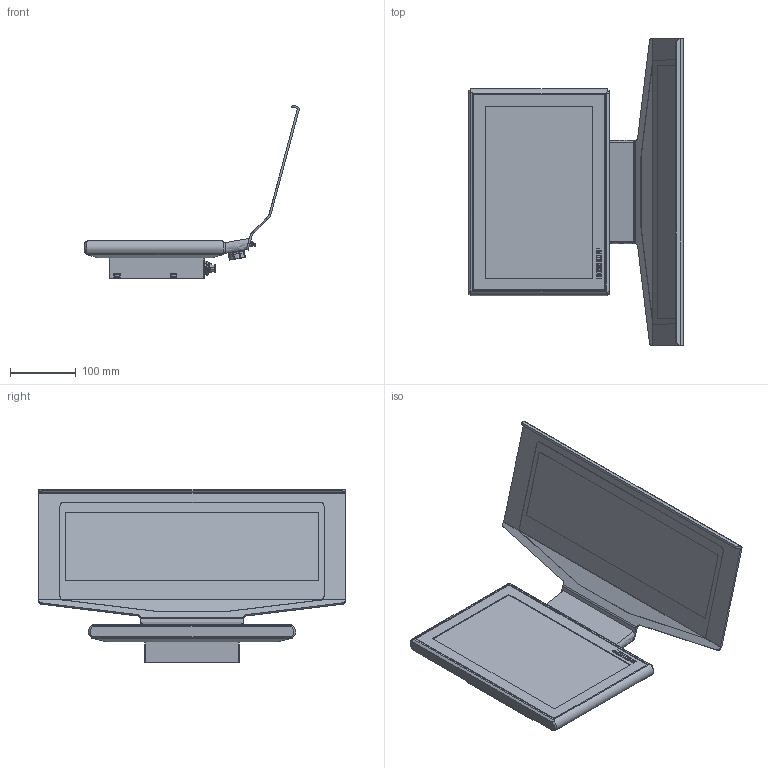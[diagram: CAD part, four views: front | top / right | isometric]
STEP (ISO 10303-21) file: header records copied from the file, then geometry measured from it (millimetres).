
FILE_DESCRIPTION(/* description */ ('','CAx-IF Rec.Pracs.---Representation and Presentation of Product Manufacturing Information (PMI)---4.0---2014-10-13'),/* implementation_level */ '2;1');
FILE_NAME(/* name */ 'X:\0-inventor\0-3d-Teile\PC-Compo\solids\CP3xxx\0-Ausgabe\CP3913-M406.stp',/* time_stamp */ '2018-09-03T17:23:17+02:00',/* author */ ('ChristianKreuzer'),/* organization */ ('Design-AG'),/* preprocessor_version */ 'ST-DEVELOPER v17',/* originating_system */ 'Autodesk Inventor 2018',/* authorisation */ '');
FILE_SCHEMA (('AP242_MANAGED_MODEL_BASED_3D_ENGINEERING_MIM_LF { 1 0 10303 442 1 1 4 }'));
Length unit declared in the file: millimetre
Products named in the file (1): CP3913-M406-Step
Bounding box: 327.01 x 468 x 265.4 mm (x, y, z)
Volume: 2635221.8 mm3; surface area: 575674.5 mm2
Topology: 25 solids, 26 shells, 975 faces, 2462 edges, 1591 vertices
Faces by surface type: plane 453, cylinder 333, cone 76, bspline 65, sphere 31, torus 17
Full cylindrical faces by diameter (mm): 0.5 x8, 1 x23, 1.5 x1, 4 x2, 4.3 x1, 4.917 x4, 5 x4, 5.5 x8, 5.9 x1, 6 x1, 6.6 x1, 7.6 x2, 7.9 x1, 8 x1, 8.5 x6, 8.8 x4, 9 x3, 10 x4, 11 x2, 12 x1, 16.01 x1, 20 x1, 20.917 x1, 22 x2, 24 x1, 25 x1
Entity records: 33692 total; most frequent: CARTESIAN_POINT 9279, DIRECTION 4870, ORIENTED_EDGE 4856, EDGE_CURVE 2428, AXIS2_PLACEMENT_3D 1795, VERTEX_POINT 1591, LINE 1280, VECTOR 1280
